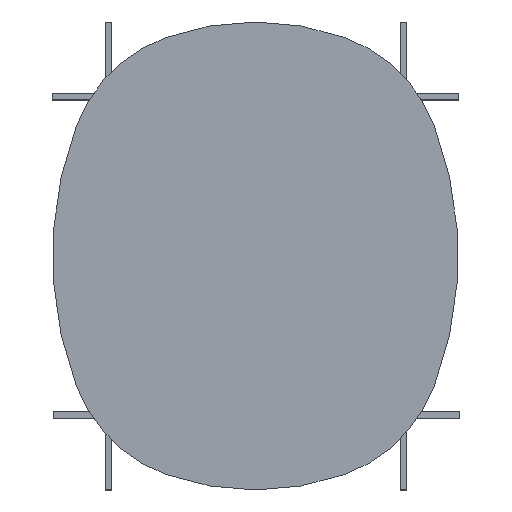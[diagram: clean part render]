
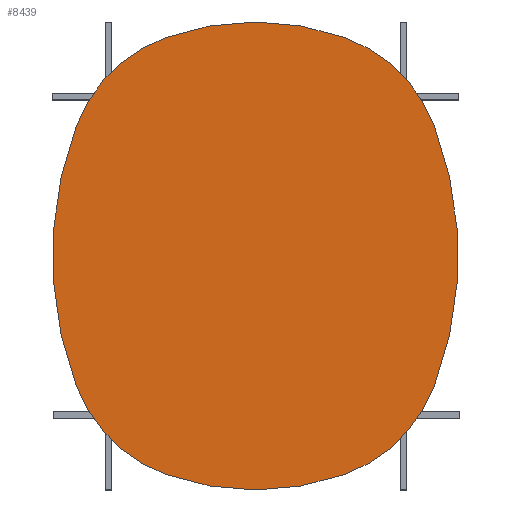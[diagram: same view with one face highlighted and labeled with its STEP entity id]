
A CAD part, top view. The second image highlights one B-rep face of the part: STEP entity #8439.
In plain terms, the highlighted planar face has unit normal (0, 0, 1).
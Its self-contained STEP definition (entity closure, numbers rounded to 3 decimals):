
#312 = DIRECTION ( 'NONE',  ( -1., 0., 0. ) ) ;
#350 = DIRECTION ( 'NONE',  ( -1., 0., 0. ) ) ;
#371 = CARTESIAN_POINT ( 'NONE',  ( 0., 50., 4. ) ) ;
#426 = FACE_OUTER_BOUND ( 'NONE', #11424, .T. ) ;
#1190 = ORIENTED_EDGE ( 'NONE', *, *, #14861, .T. ) ;
#1311 = VERTEX_POINT ( 'NONE', #13040 ) ;
#1920 = CARTESIAN_POINT ( 'NONE',  ( 265., 0., 4. ) ) ;
#2352 = AXIS2_PLACEMENT_3D ( 'NONE', #10571, #13089, #312 ) ;
#3191 = EDGE_CURVE ( 'NONE', #1311, #12472, #10644, .T. ) ;
#3542 = AXIS2_PLACEMENT_3D ( 'NONE', #14305, #9002, #350 ) ;
#3583 = VERTEX_POINT ( 'NONE', #14928 ) ;
#3823 = EDGE_CURVE ( 'NONE', #3583, #12472, #9038, .T. ) ;
#4309 = VERTEX_POINT ( 'NONE', #8688 ) ;
#4578 = ORIENTED_EDGE ( 'NONE', *, *, #4851, .T. ) ;
#4652 = CARTESIAN_POINT ( 'NONE',  ( -142.92, 350.248, 4. ) ) ;
#4761 = AXIS2_PLACEMENT_3D ( 'NONE', #13917, #16454, #4915 ) ;
#4851 = EDGE_CURVE ( 'NONE', #8600, #16402, #9611, .T. ) ;
#4915 = DIRECTION ( 'NONE',  ( -1., 0., 0. ) ) ;
#5063 = CARTESIAN_POINT ( 'NONE',  ( 62.212, -124.226, 4. ) ) ;
#5645 = ORIENTED_EDGE ( 'NONE', *, *, #16234, .F. ) ;
#6223 = CIRCLE ( 'NONE', #3542, 240. ) ;
#6255 = ORIENTED_EDGE ( 'NONE', *, *, #6719, .T. ) ;
#6260 = AXIS2_PLACEMENT_3D ( 'NONE', #371, #9452, #10801 ) ;
#6321 = DIRECTION ( 'NONE',  ( 0., 0., -1. ) ) ;
#6719 = EDGE_CURVE ( 'NONE', #10413, #7111, #15581, .T. ) ;
#6745 = ORIENTED_EDGE ( 'NONE', *, *, #13580, .F. ) ;
#6897 = AXIS2_PLACEMENT_3D ( 'NONE', #1920, #13684, #7061 ) ;
#7061 = DIRECTION ( 'NONE',  ( -1., 0., 0. ) ) ;
#7074 = CARTESIAN_POINT ( 'NONE',  ( 142.92, 350.248, 4. ) ) ;
#7111 = VERTEX_POINT ( 'NONE', #11751 ) ;
#7624 = CARTESIAN_POINT ( 'NONE',  ( 62.212, 124.226, 4. ) ) ;
#8439 = ADVANCED_FACE ( 'NONE', ( #426 ), #10523, .F. ) ;
#8600 = VERTEX_POINT ( 'NONE', #7074 ) ;
#8688 = CARTESIAN_POINT ( 'NONE',  ( 286.587, 209.409, 4. ) ) ;
#9002 = DIRECTION ( 'NONE',  ( 0., 0., 1. ) ) ;
#9038 = CIRCLE ( 'NONE', #4761, 240. ) ;
#9167 = DIRECTION ( 'NONE',  ( -1., 0., 0. ) ) ;
#9399 = AXIS2_PLACEMENT_3D ( 'NONE', #5063, #16354, #12637 ) ;
#9452 = DIRECTION ( 'NONE',  ( 0., 0., -1. ) ) ;
#9611 = CIRCLE ( 'NONE', #2352, 425. ) ;
#10204 = AXIS2_PLACEMENT_3D ( 'NONE', #11776, #14213, #9167 ) ;
#10382 = DIRECTION ( 'NONE',  ( 1., 0., 0. ) ) ;
#10413 = VERTEX_POINT ( 'NONE', #16307 ) ;
#10523 = PLANE ( 'NONE',  #10204 ) ;
#10571 = CARTESIAN_POINT ( 'NONE',  ( 0., -50., 4. ) ) ;
#10644 = CIRCLE ( 'NONE', #6897, 590. ) ;
#10801 = DIRECTION ( 'NONE',  ( -1., 0., 0. ) ) ;
#11363 = CIRCLE ( 'NONE', #6260, 425. ) ;
#11424 = EDGE_LOOP ( 'NONE', ( #5645, #6255, #15308, #6745, #4578, #1190, #15312, #15247 ) ) ;
#11588 = CIRCLE ( 'NONE', #15609, 590. ) ;
#11751 = CARTESIAN_POINT ( 'NONE',  ( 286.587, -209.409, 4. ) ) ;
#11776 = CARTESIAN_POINT ( 'NONE',  ( 0., -50., 4. ) ) ;
#12472 = VERTEX_POINT ( 'NONE', #14672 ) ;
#12637 = DIRECTION ( 'NONE',  ( 1., 0., 0. ) ) ;
#13040 = CARTESIAN_POINT ( 'NONE',  ( -286.587, 209.409, 4. ) ) ;
#13089 = DIRECTION ( 'NONE',  ( 0., 0., 1. ) ) ;
#13580 = EDGE_CURVE ( 'NONE', #8600, #4309, #15359, .T. ) ;
#13684 = DIRECTION ( 'NONE',  ( 0., 0., 1. ) ) ;
#13892 = CARTESIAN_POINT ( 'NONE',  ( -265., 0., 4. ) ) ;
#13917 = CARTESIAN_POINT ( 'NONE',  ( -62.212, -124.226, 4. ) ) ;
#14164 = DIRECTION ( 'NONE',  ( 0., 0., -1. ) ) ;
#14213 = DIRECTION ( 'NONE',  ( 0., 0., -1. ) ) ;
#14305 = CARTESIAN_POINT ( 'NONE',  ( -62.212, 124.226, 4. ) ) ;
#14672 = CARTESIAN_POINT ( 'NONE',  ( -286.587, -209.409, 4. ) ) ;
#14687 = EDGE_CURVE ( 'NONE', #4309, #7111, #11588, .T. ) ;
#14861 = EDGE_CURVE ( 'NONE', #16402, #1311, #6223, .T. ) ;
#14928 = CARTESIAN_POINT ( 'NONE',  ( -142.92, -350.248, 4. ) ) ;
#15233 = DIRECTION ( 'NONE',  ( 1., 0., 0. ) ) ;
#15247 = ORIENTED_EDGE ( 'NONE', *, *, #3823, .F. ) ;
#15308 = ORIENTED_EDGE ( 'NONE', *, *, #14687, .F. ) ;
#15312 = ORIENTED_EDGE ( 'NONE', *, *, #3191, .T. ) ;
#15359 = CIRCLE ( 'NONE', #16452, 240. ) ;
#15581 = CIRCLE ( 'NONE', #9399, 240. ) ;
#15609 = AXIS2_PLACEMENT_3D ( 'NONE', #13892, #6321, #15233 ) ;
#16234 = EDGE_CURVE ( 'NONE', #10413, #3583, #11363, .T. ) ;
#16307 = CARTESIAN_POINT ( 'NONE',  ( 142.92, -350.248, 4. ) ) ;
#16354 = DIRECTION ( 'NONE',  ( 0., 0., 1. ) ) ;
#16402 = VERTEX_POINT ( 'NONE', #4652 ) ;
#16452 = AXIS2_PLACEMENT_3D ( 'NONE', #7624, #14164, #10382 ) ;
#16454 = DIRECTION ( 'NONE',  ( 0., 0., -1. ) ) ;
